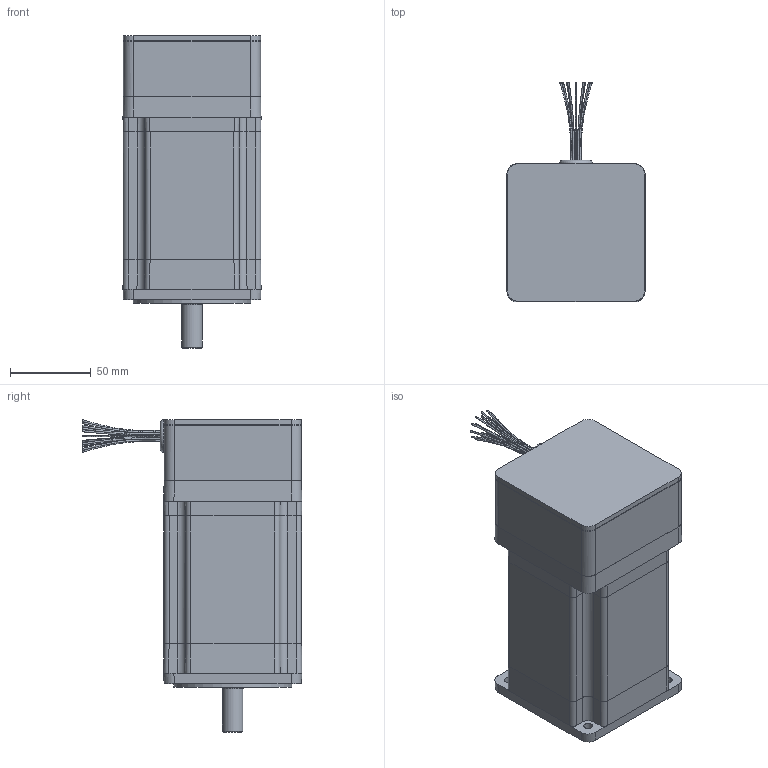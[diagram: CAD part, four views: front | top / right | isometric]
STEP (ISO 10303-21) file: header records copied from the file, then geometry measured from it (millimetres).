
FILE_DESCRIPTION((''),'2;1');
FILE_NAME('C:\CAD_work\Dummy_Modeling_Project_02-12-05\3D MODELS\BE343_FL.stp','2005-12-20T16:07:08',('jevans'),(''),'Autodesk Inventor 10','Autodesk Inventor 10','');
FILE_SCHEMA(('AUTOMOTIVE_DESIGN { 1 0 10303 214 1 1 1 1 }'));
Length unit declared in the file: inch
Products named in the file (1): BE34_FL
Bounding box: 85.66 x 136.17 x 193.93 mm (x, y, z)
Volume: 1105346.4 mm3; surface area: 83544.4 mm2
Topology: 4 solids, 4 shells, 255 faces, 581 edges, 360 vertices
Faces by surface type: plane 140, cylinder 83, bspline 25, cone 6, torus 1
Full cylindrical faces by diameter (mm): 2.5 x2, 7.95 x1, 12.7 x1, 14.994 x1, 15 x1, 20.32 x1, 32 x1, 32.007 x1, 35.001 x1, 36.779 x1, 37.109 x1, 41.326 x3, 73.025 x1
Entity records: 9135 total; most frequent: CARTESIAN_POINT 3497, DIRECTION 1187, ORIENTED_EDGE 1084, EDGE_CURVE 542, AXIS2_PLACEMENT_3D 450, VERTEX_POINT 351, EDGE_LOOP 327, VECTOR 287
